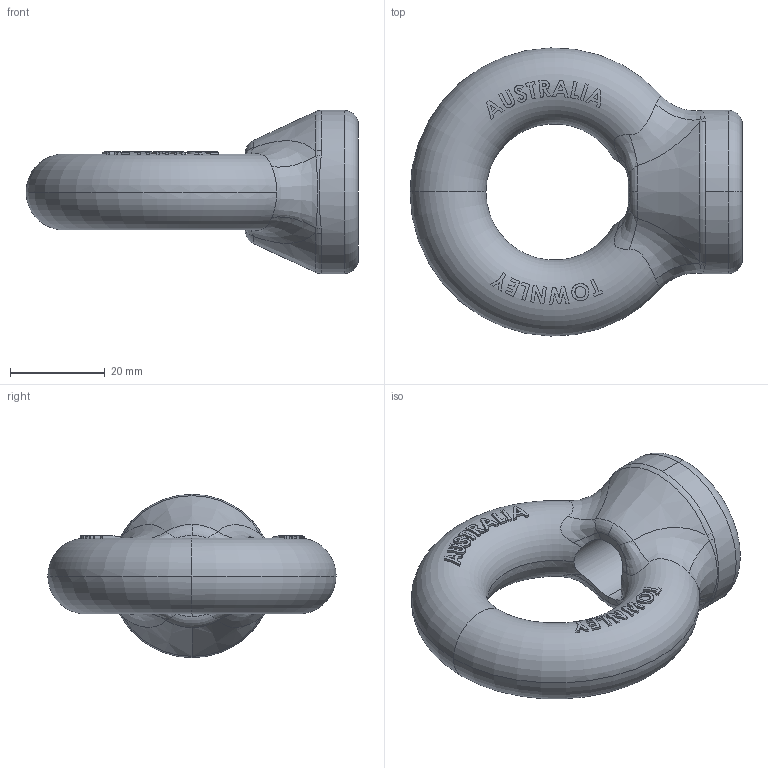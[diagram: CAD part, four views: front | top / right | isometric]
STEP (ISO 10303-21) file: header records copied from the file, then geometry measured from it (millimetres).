
FILE_DESCRIPTION (( 'STEP AP203' ), '1' );
FILE_NAME ('ENMC16.STEP', '2010-02-12T01:16:46', ( ' ' ), ( ' ' ), 'SwSTEP 2.0', 'SolidWorks 2003240', '' );
FILE_SCHEMA (( 'CONFIG_CONTROL_DESIGN' ));
Length unit declared in the file: millimetre
Products named in the file (1): ENMC16
Bounding box: 69.91 x 60.68 x 34.4 mm (x, y, z)
Volume: 37308.4 mm3; surface area: 9893.4 mm2
Topology: 1 solids, 1 shells, 225 faces, 590 edges, 385 vertices
Faces by surface type: plane 129, bspline 51, torus 33, cone 8, cylinder 4
Entity records: 22684 total; most frequent: CARTESIAN_POINT 17884, ORIENTED_EDGE 1180, DIRECTION 631, EDGE_CURVE 590, VERTEX_POINT 385, B_SPLINE_CURVE_WITH_KNOTS 366, EDGE_LOOP 247, AXIS2_PLACEMENT_3D 232
